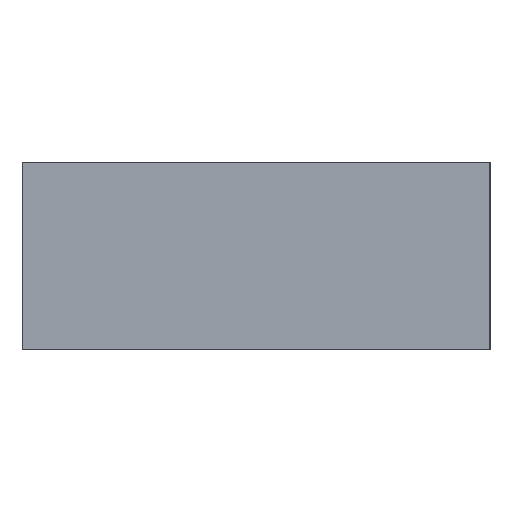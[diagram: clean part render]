
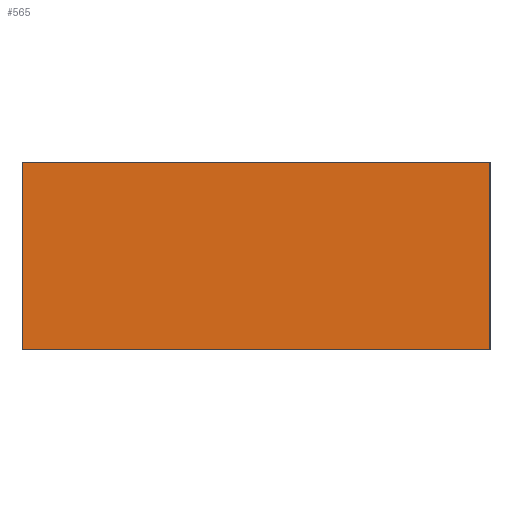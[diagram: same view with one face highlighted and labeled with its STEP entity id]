
A CAD part, left-side view. The second image highlights one B-rep face of the part: STEP entity #565.
In plain terms, the highlighted planar face has unit normal (-1, 0, 0).
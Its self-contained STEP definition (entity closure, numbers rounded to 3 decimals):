
#393 = EDGE_CURVE( '', #693, #579, #910, .T. );
#565 = ADVANCED_FACE( '', ( #1099 ), #1100, .T. );
#571 = EDGE_CURVE( '', #579, #671, #1106, .T. );
#579 = VERTEX_POINT( '', #1114 );
#639 = VERTEX_POINT( '', #1183 );
#647 = EDGE_CURVE( '', #639, #671, #1191, .T. );
#671 = VERTEX_POINT( '', #1216 );
#693 = VERTEX_POINT( '', #1239 );
#741 = EDGE_CURVE( '', #693, #639, #1292, .T. );
#910 = LINE( '', #1509, #1510 );
#1099 = FACE_OUTER_BOUND( '', #1785, .T. );
#1100 = PLANE( '', #1786 );
#1106 = LINE( '', #1795, #1796 );
#1114 = CARTESIAN_POINT( '', ( -4., -35., 7. ) );
#1183 = CARTESIAN_POINT( '', ( -4., 0., -7. ) );
#1191 = LINE( '', #1917, #1918 );
#1216 = CARTESIAN_POINT( '', ( -4., -35., -7. ) );
#1239 = CARTESIAN_POINT( '', ( -4., 0., 7. ) );
#1292 = LINE( '', #2054, #2055 );
#1509 = CARTESIAN_POINT( '', ( -4., 0., 7. ) );
#1510 = VECTOR( '', #2205, 1. );
#1785 = EDGE_LOOP( '', ( #2418, #2419, #2420, #2421 ) );
#1786 = AXIS2_PLACEMENT_3D( '', #2422, #2423, #2424 );
#1795 = CARTESIAN_POINT( '', ( -4., -35., 7. ) );
#1796 = VECTOR( '', #2426, 1. );
#1917 = CARTESIAN_POINT( '', ( -4., 0., -7. ) );
#1918 = VECTOR( '', #2535, 1. );
#2054 = CARTESIAN_POINT( '', ( -4., 0., 7. ) );
#2055 = VECTOR( '', #2623, 1. );
#2205 = DIRECTION( '', ( 0., -1., 0. ) );
#2418 = ORIENTED_EDGE( '', *, *, #647, .T. );
#2419 = ORIENTED_EDGE( '', *, *, #571, .F. );
#2420 = ORIENTED_EDGE( '', *, *, #393, .F. );
#2421 = ORIENTED_EDGE( '', *, *, #741, .T. );
#2422 = CARTESIAN_POINT( '', ( -4., 0., 7. ) );
#2423 = DIRECTION( '', ( -1., 0., 0. ) );
#2424 = DIRECTION( '', ( 0., 1., 0. ) );
#2426 = DIRECTION( '', ( 0., 0., -1. ) );
#2535 = DIRECTION( '', ( 0., -1., 0. ) );
#2623 = DIRECTION( '', ( 0., 0., -1. ) );
